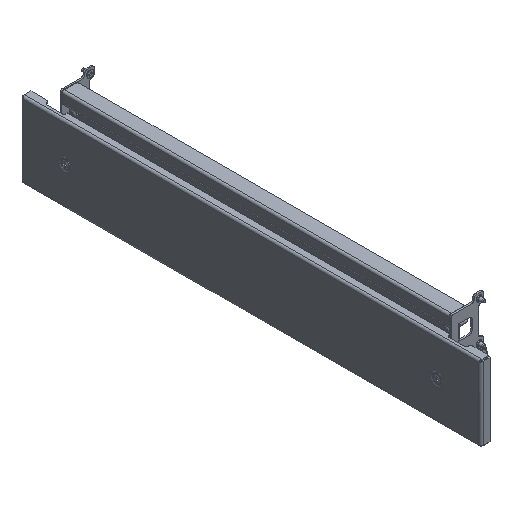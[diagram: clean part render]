
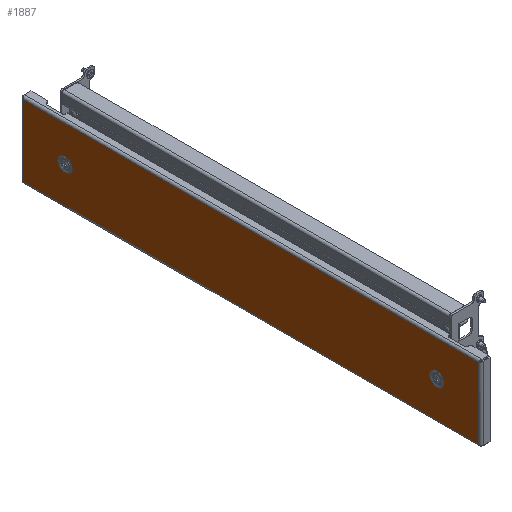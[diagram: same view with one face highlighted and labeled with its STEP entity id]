
A CAD part, isometric view. The second image highlights one B-rep face of the part: STEP entity #1887.
In plain terms, the highlighted planar face has unit normal (-1, 0, 0).
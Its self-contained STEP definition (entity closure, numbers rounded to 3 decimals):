
#1887=ADVANCED_FACE('',(#3920,#3922,#3924),#3926,.F.);
#3920=FACE_BOUND('',#3921,.T.);
#3921=EDGE_LOOP('',(#11593,#11594,#11595,#11596));
#3922=FACE_BOUND('',#3923,.T.);
#3923=EDGE_LOOP('',(#11597));
#3924=FACE_BOUND('',#3925,.T.);
#3925=EDGE_LOOP('',(#11598));
#3926=PLANE('',#3927);
#3927=AXIS2_PLACEMENT_3D('',#3928,#3929,#3930);
#3928=CARTESIAN_POINT('',(0.,0.,0.));
#3929=DIRECTION('',(1.,0.,0.));
#3930=DIRECTION('',(0.,1.,0.));
#11593=ORIENTED_EDGE('',*,*,#14269,.T.);
#11594=ORIENTED_EDGE('',*,*,#14270,.T.);
#11595=ORIENTED_EDGE('',*,*,#14271,.T.);
#11596=ORIENTED_EDGE('',*,*,#14272,.T.);
#11597=ORIENTED_EDGE('',*,*,#14273,.T.);
#11598=ORIENTED_EDGE('',*,*,#14274,.T.);
#14269=EDGE_CURVE('',#15669,#15670,#15671,.T.);
#14270=EDGE_CURVE('',#15670,#15672,#15673,.T.);
#14271=EDGE_CURVE('',#15672,#15674,#15675,.T.);
#14272=EDGE_CURVE('',#15674,#15669,#15676,.T.);
#14273=EDGE_CURVE('',#15677,#15677,#15678,.T.);
#14274=EDGE_CURVE('',#15679,#15679,#15680,.T.);
#15669=VERTEX_POINT('',#18056);
#15670=VERTEX_POINT('',#18057);
#15671=LINE('',#18058,#18059);
#15672=VERTEX_POINT('',#18061);
#15673=LINE('',#18062,#18063);
#15674=VERTEX_POINT('',#18065);
#15675=LINE('',#18066,#18067);
#15676=LINE('',#18069,#18070);
#15677=VERTEX_POINT('',#18072);
#15678=CIRCLE('',#18073,9.25);
#15679=VERTEX_POINT('',#18077);
#15680=CIRCLE('',#18078,9.25);
#18056=CARTESIAN_POINT('',(0.,292.7,45.7));
#18057=CARTESIAN_POINT('',(0.,292.7,-45.7));
#18058=CARTESIAN_POINT('',(0.,292.7,45.7));
#18059=VECTOR('',#18060,1.);
#18060=DIRECTION('',(0.,0.,-1.));
#18061=CARTESIAN_POINT('',(0.,-292.7,-45.7));
#18062=CARTESIAN_POINT('',(0.,292.7,-45.7));
#18063=VECTOR('',#18064,1.);
#18064=DIRECTION('',(0.,-1.,0.));
#18065=CARTESIAN_POINT('',(0.,-292.7,45.7));
#18066=CARTESIAN_POINT('',(0.,-292.7,-45.7));
#18067=VECTOR('',#18068,1.);
#18068=DIRECTION('',(0.,0.,1.));
#18069=CARTESIAN_POINT('',(0.,-292.7,45.7));
#18070=VECTOR('',#18071,1.);
#18071=DIRECTION('',(0.,1.,0.));
#18072=CARTESIAN_POINT('',(0.,247.75,0.));
#18073=AXIS2_PLACEMENT_3D('',#18074,#18075,#18076);
#18074=CARTESIAN_POINT('',(0.,238.5,0.));
#18075=DIRECTION('',(1.,0.,0.));
#18076=DIRECTION('',(0.,1.,0.));
#18077=CARTESIAN_POINT('',(0.,-229.25,0.));
#18078=AXIS2_PLACEMENT_3D('',#18079,#18080,#18081);
#18079=CARTESIAN_POINT('',(0.,-238.5,0.));
#18080=DIRECTION('',(1.,0.,0.));
#18081=DIRECTION('',(0.,1.,0.));
